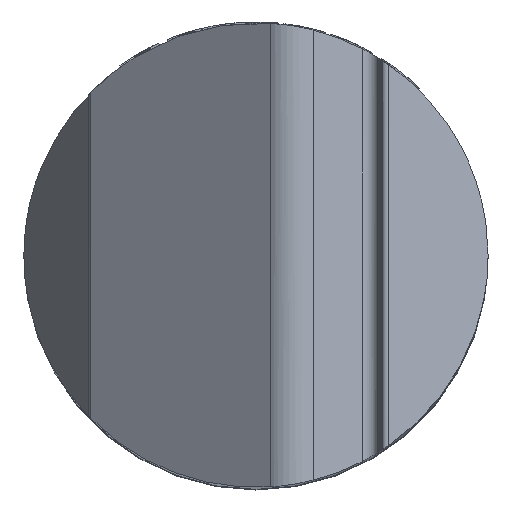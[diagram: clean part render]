
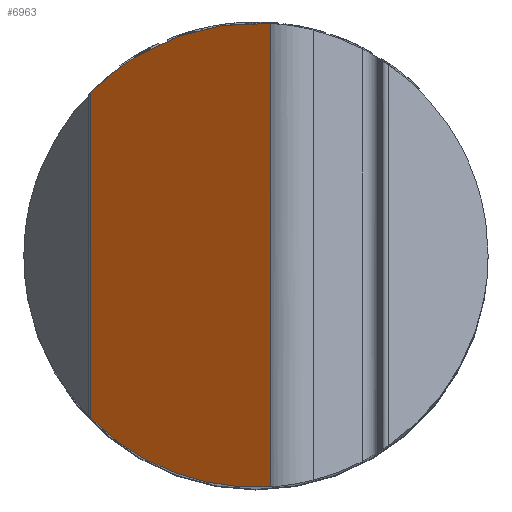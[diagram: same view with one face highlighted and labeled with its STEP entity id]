
A CAD part, top view. The second image highlights one B-rep face of the part: STEP entity #6963.
In plain terms, the highlighted planar face has unit normal (-0.604, 0, 0.797).
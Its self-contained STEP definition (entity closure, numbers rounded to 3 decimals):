
#84=CARTESIAN_POINT('',(2.288,37.43,127.159));
#96=CARTESIAN_POINT('',(2.288,37.43,127.159));
#97=CARTESIAN_POINT('',(-0.409,37.595,125.117));
#98=CARTESIAN_POINT('',(-5.651,37.338,121.15));
#99=CARTESIAN_POINT('',(-13.114,35.414,115.502));
#100=CARTESIAN_POINT('',(-20.176,31.948,110.157));
#101=CARTESIAN_POINT('',(-24.582,28.476,106.823));
#102=CARTESIAN_POINT('',(-26.683,26.348,105.233));
#1877=CARTESIAN_POINT('',(-26.683,-26.348,
105.233));
#1878=CARTESIAN_POINT('',(-24.582,-28.476,
106.823));
#1879=CARTESIAN_POINT('',(-20.176,-31.948,
110.157));
#1880=CARTESIAN_POINT('',(-13.114,-35.414,
115.502));
#1881=CARTESIAN_POINT('',(-5.651,-37.338,
121.15));
#1882=CARTESIAN_POINT('',(-0.409,-37.595,
125.117));
#1883=CARTESIAN_POINT('',(2.288,-37.43,127.159));
#1895=CARTESIAN_POINT('',(2.288,-37.43,127.159));
#1991=DIRECTION('',(0.,1.,0.));
#1992=VECTOR('',#1991,52.697);
#1993=CARTESIAN_POINT('',(-26.683,-26.348,
105.233));
#1994=LINE('',#1993,#1992);
#1995=DIRECTION('',(0.,1.,0.));
#1996=VECTOR('',#1995,74.86);
#1997=CARTESIAN_POINT('',(2.288,-37.43,127.159));
#1998=LINE('',#1997,#1996);
#4927=VERTEX_POINT('',#84);
#4928=VERTEX_POINT('',#102);
#4938=VERTEX_POINT('',#1895);
#4939=VERTEX_POINT('',#1877);
#6951=CARTESIAN_POINT('',(2.288,-50.,127.159));
#6952=DIRECTION('',(0.603,0.,-0.797));
#6953=DIRECTION('',(-0.797,0.,-0.603));
#6954=AXIS2_PLACEMENT_3D('',#6951,#6952,#6953);
#6955=PLANE('',#6954);
#6956=ORIENTED_EDGE('',*,*,#6559,.F.);
#6958=ORIENTED_EDGE('',*,*,#6957,.F.);
#6959=ORIENTED_EDGE('',*,*,#6812,.F.);
#6960=ORIENTED_EDGE('',*,*,#6944,.T.);
#6961=EDGE_LOOP('',(#6956,#6958,#6959,#6960));
#6962=FACE_OUTER_BOUND('',#6961,.F.);
#6963=ADVANCED_FACE('',(#6962),#6955,.F.);
#103=B_SPLINE_CURVE_WITH_KNOTS('',3,(#96,#97,#98,#99,#100,#101,#102),
.UNSPECIFIED.,.F.,.F.,(4,1,1,1,4),(0.,0.25,0.5,0.75,1.),
.UNSPECIFIED.);
#1884=B_SPLINE_CURVE_WITH_KNOTS('',3,(#1877,#1878,#1879,#1880,#1881,#1882,
#1883),.UNSPECIFIED.,.F.,.F.,(4,1,1,1,4),(0.,0.25,0.5,0.75,1.),
.UNSPECIFIED.);
#6559=EDGE_CURVE('',#4927,#4928,#103,.T.);
#6812=EDGE_CURVE('',#4939,#4938,#1884,.T.);
#6944=EDGE_CURVE('',#4939,#4928,#1994,.T.);
#6957=EDGE_CURVE('',#4938,#4927,#1998,.T.);
